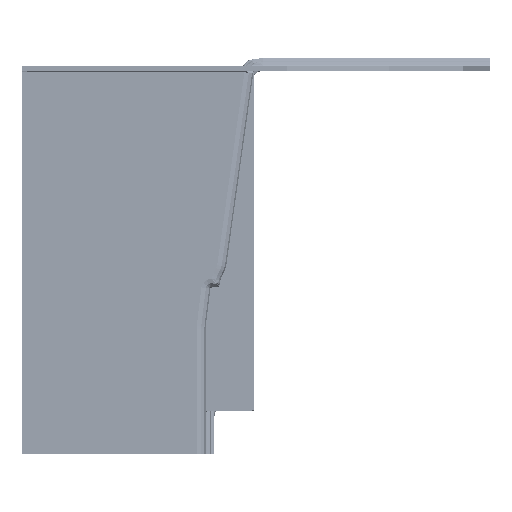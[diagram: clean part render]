
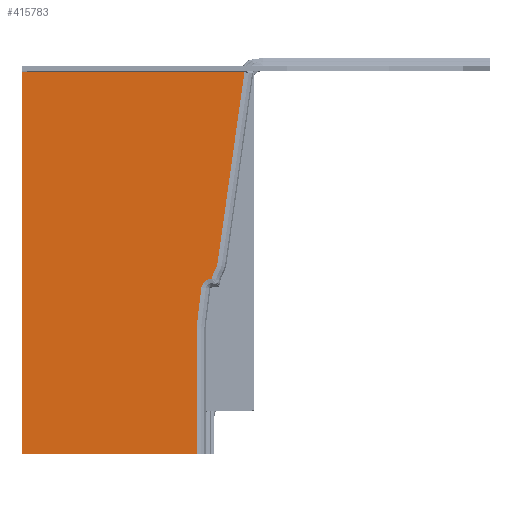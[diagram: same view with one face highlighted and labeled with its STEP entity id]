
A CAD part, left-side view. The second image highlights one B-rep face of the part: STEP entity #415783.
In plain terms, the highlighted planar face has unit normal (-1, 0, 0).
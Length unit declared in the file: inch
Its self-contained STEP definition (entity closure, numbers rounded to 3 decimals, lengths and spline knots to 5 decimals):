
#1967 = VECTOR ( 'NONE', #308593, 39.37008 ) ;
#5553 = VERTEX_POINT ( 'NONE', #459675 ) ;
#9066 = ORIENTED_EDGE ( 'NONE', *, *, #584357, .F. ) ;
#15378 = CARTESIAN_POINT ( 'NONE',  ( -7.31598, 0.68569, -4.29004 ) ) ;
#36931 = CARTESIAN_POINT ( 'NONE',  ( -7.31598, 0.9419, -5.1519 ) ) ;
#40620 = EDGE_CURVE ( 'NONE', #524941, #270313, #201938, .T. ) ;
#43209 = CARTESIAN_POINT ( 'NONE',  ( -7.31598, 0.63243, -3.98504 ) ) ;
#61042 = DIRECTION ( 'NONE',  ( 0., 0., -1. ) ) ;
#69847 = EDGE_CURVE ( 'NONE', #575571, #260060, #543293, .T. ) ;
#77120 = CARTESIAN_POINT ( 'NONE',  ( -7.31598, 0.57773, -3.82336 ) ) ;
#92523 = LINE ( 'NONE', #543583, #547394 ) ;
#102673 = DIRECTION ( 'NONE',  ( -1., 0., 0. ) ) ;
#110480 = CARTESIAN_POINT ( 'NONE',  ( -7.31598, 0.9419, -4.9836 ) ) ;
#113825 = VERTEX_POINT ( 'NONE', #545065 ) ;
#114274 = EDGE_CURVE ( 'NONE', #5553, #231132, #446274, .T. ) ;
#125866 = CARTESIAN_POINT ( 'NONE',  ( -7.31598, 0.93669, -4.89829 ) ) ;
#138837 = DIRECTION ( 'NONE',  ( 0., 0.996, -0.087 ) ) ;
#148346 = CARTESIAN_POINT ( 'NONE',  ( -7.31598, 1.03325, -3.75934 ) ) ;
#154901 = CARTESIAN_POINT ( 'NONE',  ( -7.31598, 0.1619, -4.25 ) ) ;
#158398 = CARTESIAN_POINT ( 'NONE',  ( -7.31598, 0.9419, -7.1519 ) ) ;
#158437 = ORIENTED_EDGE ( 'NONE', *, *, #114274, .F. ) ;
#161840 = CIRCLE ( 'NONE', #236900, 0.54 ) ;
#162500 = DIRECTION ( 'NONE',  ( 0., 0., 1. ) ) ;
#169900 = ORIENTED_EDGE ( 'NONE', *, *, #69847, .F. ) ;
#175829 = AXIS2_PLACEMENT_3D ( 'NONE', #373714, #284326, #276486 ) ;
#176459 = CIRCLE ( 'NONE', #286940, 0.46 ) ;
#181550 = EDGE_LOOP ( 'NONE', ( #169900, #357447, #449954, #221367, #341189, #9066, #158437, #436745, #441097, #221790, #306075 ) ) ;
#185381 = LINE ( 'NONE', #36931, #533734 ) ;
#189150 = LINE ( 'NONE', #208086, #530645 ) ;
#191943 = CARTESIAN_POINT ( 'NONE',  ( -7.31598, 0.2419, -4.9836 ) ) ;
#194582 = AXIS2_PLACEMENT_3D ( 'NONE', #15378, #416730, #61042 ) ;
#196629 = DIRECTION ( 'NONE',  ( -1., 0., 0. ) ) ;
#200471 = DIRECTION ( 'NONE',  ( 0., 0., -1. ) ) ;
#201938 = LINE ( 'NONE', #315611, #479092 ) ;
#208086 = CARTESIAN_POINT ( 'NONE',  ( -7.31598, 3.95792, -0.4469 ) ) ;
#221367 = ORIENTED_EDGE ( 'NONE', *, *, #416479, .F. ) ;
#221790 = ORIENTED_EDGE ( 'NONE', *, *, #40620, .F. ) ;
#231132 = VERTEX_POINT ( 'NONE', #77120 ) ;
#236900 = AXIS2_PLACEMENT_3D ( 'NONE', #154901, #196629, #200471 ) ;
#240105 = EDGE_CURVE ( 'NONE', #397652, #575571, #435838, .T. ) ;
#247430 = CARTESIAN_POINT ( 'NONE',  ( -7.31598, 3.95792, -7.1519 ) ) ;
#249636 = VERTEX_POINT ( 'NONE', #43209 ) ;
#260060 = VERTEX_POINT ( 'NONE', #110480 ) ;
#267254 = AXIS2_PLACEMENT_3D ( 'NONE', #191943, #102673, #366957 ) ;
#269375 = DIRECTION ( 'NONE',  ( 0., 0., -1. ) ) ;
#270313 = VERTEX_POINT ( 'NONE', #247430 ) ;
#276486 = DIRECTION ( 'NONE',  ( 0., 0., -1. ) ) ;
#284326 = DIRECTION ( 'NONE',  ( -1., 0., 0. ) ) ;
#286940 = AXIS2_PLACEMENT_3D ( 'NONE', #148346, #557463, #466140 ) ;
#292132 = EDGE_CURVE ( 'NONE', #260060, #524941, #185381, .T. ) ;
#292755 = VERTEX_POINT ( 'NONE', #415413 ) ;
#306075 = ORIENTED_EDGE ( 'NONE', *, *, #292132, .F. ) ;
#308593 = DIRECTION ( 'NONE',  ( 0., 0.122, -0.993 ) ) ;
#313295 = DIRECTION ( 'NONE',  ( 0., -1., 0. ) ) ;
#315611 = CARTESIAN_POINT ( 'NONE',  ( -7.31598, 0.8144, -7.1519 ) ) ;
#340276 = EDGE_CURVE ( 'NONE', #270313, #292755, #189150, .T. ) ;
#341189 = ORIENTED_EDGE ( 'NONE', *, *, #350832, .F. ) ;
#350832 = EDGE_CURVE ( 'NONE', #249636, #447507, #161840, .T. ) ;
#357447 = ORIENTED_EDGE ( 'NONE', *, *, #240105, .F. ) ;
#366680 = CARTESIAN_POINT ( 'NONE',  ( -7.31598, 0.93669, -4.89829 ) ) ;
#366957 = DIRECTION ( 'NONE',  ( 0., 0., -1. ) ) ;
#373714 = CARTESIAN_POINT ( 'NONE',  ( -7.31598, 0.2419, -4.9836 ) ) ;
#396075 = VECTOR ( 'NONE', #511780, 39.37008 ) ;
#397652 = VERTEX_POINT ( 'NONE', #582266 ) ;
#415413 = CARTESIAN_POINT ( 'NONE',  ( -7.31598, 3.95792, -0.5519 ) ) ;
#415783 = ADVANCED_FACE ( 'NONE', ( #455658 ), #553581, .T. ) ;
#416479 = EDGE_CURVE ( 'NONE', #447507, #113825, #526304, .T. ) ;
#416730 = DIRECTION ( 'NONE',  ( -1., 0., 0. ) ) ;
#426622 = VECTOR ( 'NONE', #138837, 39.37008 ) ;
#435838 = LINE ( 'NONE', #125866, #1967 ) ;
#436745 = ORIENTED_EDGE ( 'NONE', *, *, #455416, .F. ) ;
#441097 = ORIENTED_EDGE ( 'NONE', *, *, #340276, .F. ) ;
#446274 = LINE ( 'NONE', #462131, #396075 ) ;
#447507 = VERTEX_POINT ( 'NONE', #563566 ) ;
#449954 = ORIENTED_EDGE ( 'NONE', *, *, #559331, .F. ) ;
#455416 = EDGE_CURVE ( 'NONE', #292755, #5553, #92523, .T. ) ;
#455658 = FACE_OUTER_BOUND ( 'NONE', #181550, .T. ) ;
#459675 = CARTESIAN_POINT ( 'NONE',  ( -7.31598, 0.11796, -0.5519 ) ) ;
#462131 = CARTESIAN_POINT ( 'NONE',  ( -7.31598, 0.57773, -3.82336 ) ) ;
#466140 = DIRECTION ( 'NONE',  ( 0., 0., -1. ) ) ;
#479092 = VECTOR ( 'NONE', #585777, 39.37008 ) ;
#511780 = DIRECTION ( 'NONE',  ( 0., 0.139, -0.99 ) ) ;
#524941 = VERTEX_POINT ( 'NONE', #158398 ) ;
#526304 = LINE ( 'NONE', #585881, #426622 ) ;
#530645 = VECTOR ( 'NONE', #162500, 39.37008 ) ;
#533734 = VECTOR ( 'NONE', #269375, 39.37008 ) ;
#543293 = CIRCLE ( 'NONE', #175829, 0.7 ) ;
#543583 = CARTESIAN_POINT ( 'NONE',  ( -7.31598, 0.2419, -0.5519 ) ) ;
#545065 = CARTESIAN_POINT ( 'NONE',  ( -7.31598, 0.70094, -4.11571 ) ) ;
#547394 = VECTOR ( 'NONE', #313295, 39.37008 ) ;
#553581 = PLANE ( 'NONE',  #267254 ) ;
#556060 = CIRCLE ( 'NONE', #194582, 0.175 ) ;
#557463 = DIRECTION ( 'NONE',  ( 1., 0., 0. ) ) ;
#559331 = EDGE_CURVE ( 'NONE', #113825, #397652, #556060, .T. ) ;
#563566 = CARTESIAN_POINT ( 'NONE',  ( -7.31598, 0.68457, -4.11427 ) ) ;
#575571 = VERTEX_POINT ( 'NONE', #366680 ) ;
#582266 = CARTESIAN_POINT ( 'NONE',  ( -7.31598, 0.85938, -4.26871 ) ) ;
#584357 = EDGE_CURVE ( 'NONE', #231132, #249636, #176459, .T. ) ;
#585777 = DIRECTION ( 'NONE',  ( 0., 1., 0. ) ) ;
#585881 = CARTESIAN_POINT ( 'NONE',  ( -7.31598, 0.70094, -4.11571 ) ) ;
